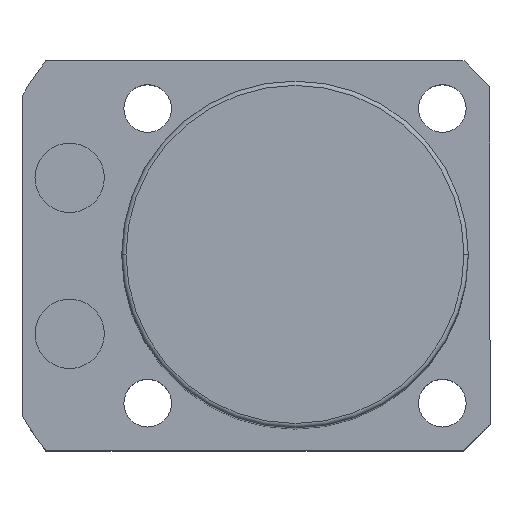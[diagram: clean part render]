
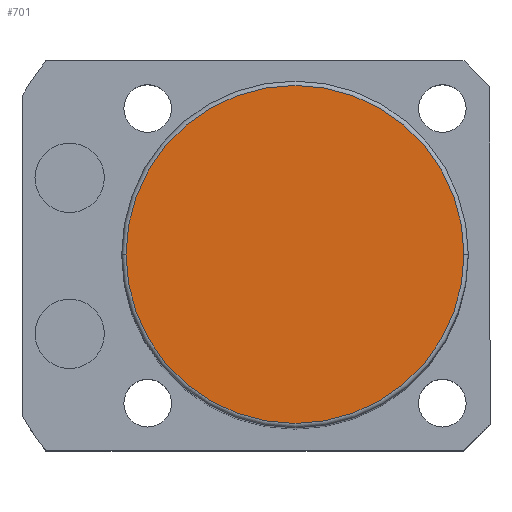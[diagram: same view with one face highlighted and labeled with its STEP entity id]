
A CAD part, top view. The second image highlights one B-rep face of the part: STEP entity #701.
In plain terms, the highlighted planar face has unit normal (0, 0, 1).
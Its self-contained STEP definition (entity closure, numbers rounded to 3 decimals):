
#275 = CIRCLE ( 'NONE', #621, 19.5 ) ;
#297 = ORIENTED_EDGE ( 'NONE', *, *, #2445, .T. ) ;
#554 = AXIS2_PLACEMENT_3D ( 'NONE', #3485, #1236, #4869 ) ;
#621 = AXIS2_PLACEMENT_3D ( 'NONE', #2783, #1844, #3679 ) ;
#701 = ADVANCED_FACE ( 'NONE', ( #1850 ), #2593, .T. ) ;
#780 = EDGE_CURVE ( 'NONE', #2363, #5599, #275, .T. ) ;
#841 = EDGE_LOOP ( 'NONE', ( #297, #1312 ) ) ;
#1236 = DIRECTION ( 'NONE',  ( 0., 0., 1. ) ) ;
#1312 = ORIENTED_EDGE ( 'NONE', *, *, #780, .T. ) ;
#1472 = AXIS2_PLACEMENT_3D ( 'NONE', #4671, #5060, #5135 ) ;
#1844 = DIRECTION ( 'NONE',  ( 0., 0., 1. ) ) ;
#1850 = FACE_OUTER_BOUND ( 'NONE', #841, .T. ) ;
#2363 = VERTEX_POINT ( 'NONE', #5046 ) ;
#2445 = EDGE_CURVE ( 'NONE', #5599, #2363, #2885, .T. ) ;
#2593 = PLANE ( 'NONE',  #554 ) ;
#2783 = CARTESIAN_POINT ( 'NONE',  ( 0., 0., 103.5 ) ) ;
#2885 = CIRCLE ( 'NONE', #1472, 19.5 ) ;
#3485 = CARTESIAN_POINT ( 'NONE',  ( 0., 0., 103.5 ) ) ;
#3679 = DIRECTION ( 'NONE',  ( 1., 0., 0. ) ) ;
#3984 = CARTESIAN_POINT ( 'NONE',  ( 19.5, 0., 103.5 ) ) ;
#4671 = CARTESIAN_POINT ( 'NONE',  ( 0., 0., 103.5 ) ) ;
#4869 = DIRECTION ( 'NONE',  ( 1., 0., 0. ) ) ;
#5046 = CARTESIAN_POINT ( 'NONE',  ( -19.5, 0., 103.5 ) ) ;
#5060 = DIRECTION ( 'NONE',  ( 0., 0., 1. ) ) ;
#5135 = DIRECTION ( 'NONE',  ( 1., 0., 0. ) ) ;
#5599 = VERTEX_POINT ( 'NONE', #3984 ) ;
